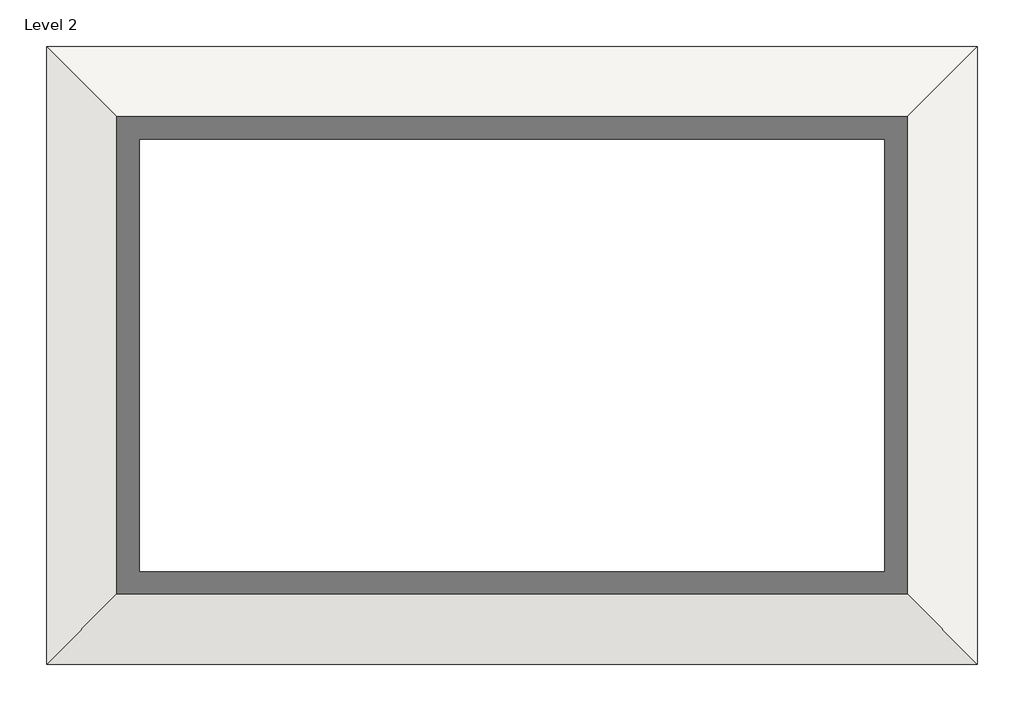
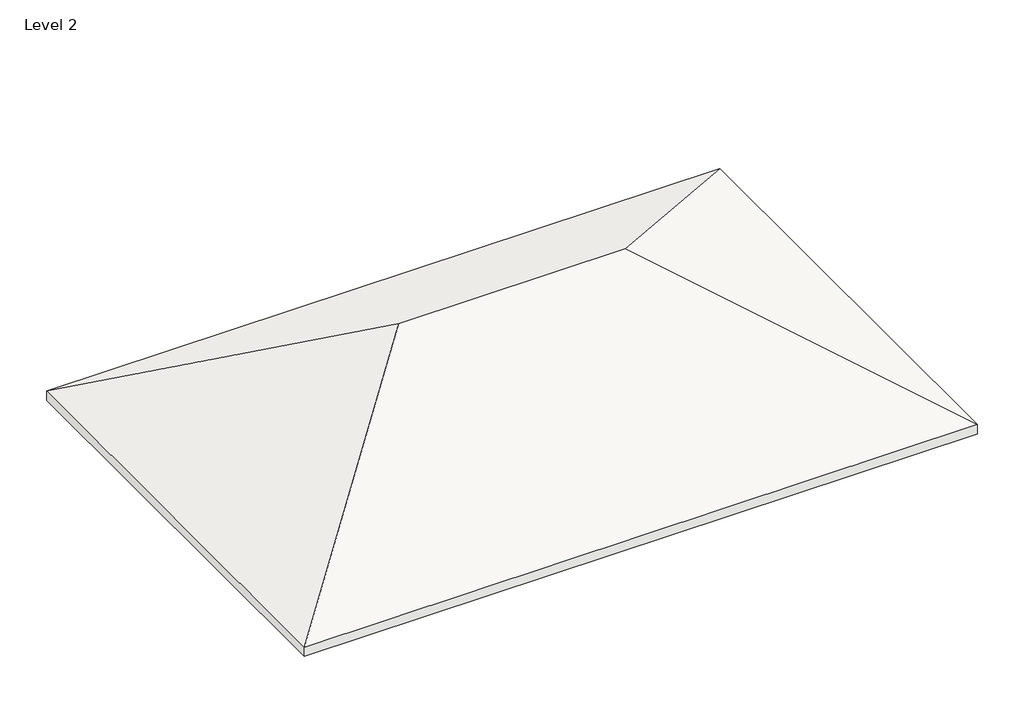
# One storey: 1 roof.
"""IFC4 building model written with IfcOpenShell, lengths in millimetres."""

from ifc_helpers import new_model, si_unit, origin, place, context, project, spatial, faceted_brep, element, save

model = new_model("IFC4")

# Units and contexts
model_context = context("Model", 3, world=origin())
ifc_project = project(units=[si_unit("LENGTHUNIT", "METRE", prefix="MILLI")], contexts=[model_context])

# Site, building, storey
site = spatial("IfcSite", under=ifc_project)
building = spatial("IfcBuilding", under=site)
storey = spatial("IfcBuildingStorey", under=building, Name="Level 2", Elevation=4000.0)

# Roof
placement = place(None, origin())
element("IfcRoof", 1, ObjectType="Generic Roof - 300mm", at=placement, inside=storey, context=model_context, shape_type="Brep", body=[
    faceted_brep([(-2712.1530787, -25.0369149, 8387.8620458), (-10612.1530787, -7925.0369149, 3826.7949192), (-10612.1530787, 7874.9630851, 3826.7949192), (13187.8469213, -7925.0369149, 3826.7949192), (5287.8469213, -25.0369149, 8387.8620458), (13187.8469213, 7874.9630851, 3826.7949192), (-10612.1530787, -7925.0369149, 4173.2050808), (-2712.1530787, -25.0369149, 8734.2722074), (-10612.1530787, 7874.9630851, 4173.2050808), (13187.8469213, -7925.0369149, 4173.2050808), (13187.8469213, 7874.9630851, 4173.2050808), (5287.8469213, -25.0369149, 8734.2722074)], [[[0, 1, 2]], [[3, 4, 5]], [[1, 0, 4, 3]], [[5, 4, 0, 2]], [[6, 7, 8]], [[9, 10, 11]], [[6, 9, 11, 7]], [[10, 8, 7, 11]], [[3, 9, 6, 1]], [[5, 10, 9, 3]], [[2, 8, 10, 5]], [[1, 6, 8, 2]]]),
])

save(model, "model.ifc")
